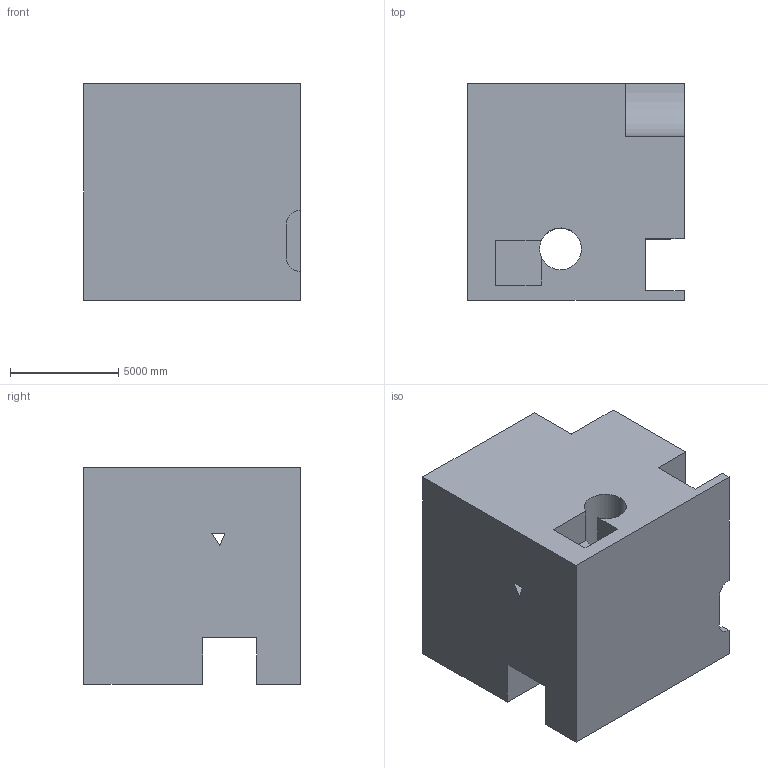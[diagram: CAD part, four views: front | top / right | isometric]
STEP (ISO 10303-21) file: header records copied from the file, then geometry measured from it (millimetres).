
FILE_DESCRIPTION (( 'STEP AP203' ), '1' );
FILE_NAME ('66.STEP', '2022-09-01T11:53:43', ( 'user' ), ( '' ), 'SwSTEP 2.0', 'SolidWorks 2021', '' );
FILE_SCHEMA (( 'CONFIG_CONTROL_DESIGN' ));
Length unit declared in the file: centimetre
Products named in the file (1): 66
Bounding box: 10000 x 10000 x 10000 mm (x, y, z)
Volume: 851673882598.4 mm3; surface area: 721018832.5 mm2
Topology: 1 solids, 1 shells, 35 faces, 102 edges, 68 vertices
Faces by surface type: plane 28, cylinder 7
Entity records: 1239 total; most frequent: CARTESIAN_POINT 206, ORIENTED_EDGE 204, DIRECTION 192, EDGE_CURVE 102, LINE 84, VECTOR 84, VERTEX_POINT 68, AXIS2_PLACEMENT_3D 54
